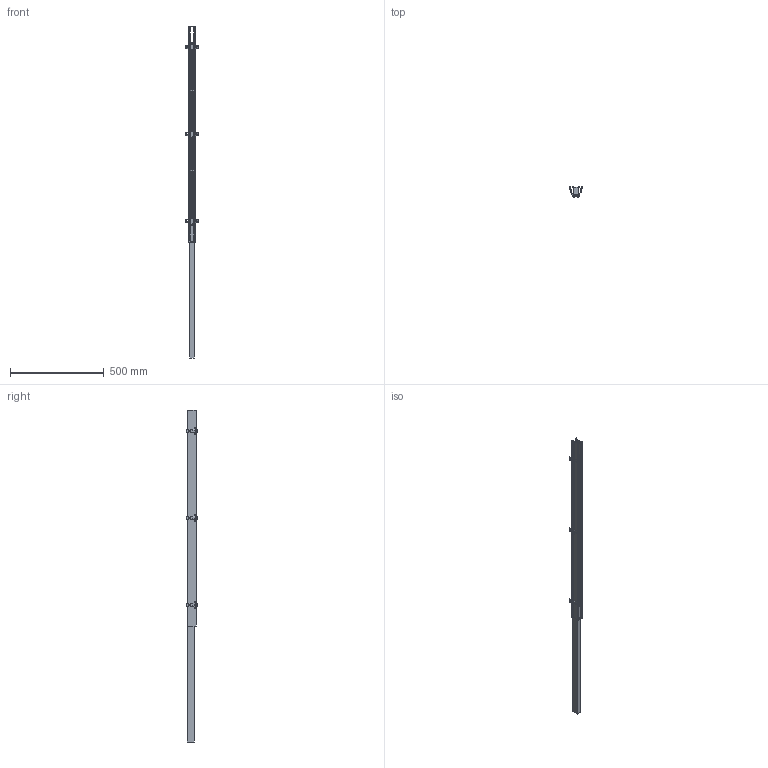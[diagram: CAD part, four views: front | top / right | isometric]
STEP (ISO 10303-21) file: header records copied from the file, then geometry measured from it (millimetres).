
FILE_DESCRIPTION(/* description */ ('Unknown'),/* implementation_level */ '2;1');
FILE_NAME(/* name */ '98375',/* time_stamp */ '2023-02-07T05:19:45-05:00',/* author */ ('Unknown'),/* organization */ ('Unknown'),/* preprocessor_version */ 'ST-DEVELOPER v18.1',/* originating_system */ 'Solid Edge',/* authorisation */ 'Unknown');
FILE_SCHEMA (('AUTOMOTIVE_DESIGN {1 0 10303 214 3 1 1}'));
Length unit declared in the file: millimetre
Products named in the file (8): CONTROCASSA A MOLLE; LED-PRO886; LED-RIV004; ATTACCO+MOLLE; LED-STA336; LED-MOL030; LED-OR130; LED-POL022
Assembly tree (22 placements, depth 3):
  CONTROCASSA A MOLLE
    LED-PRO886
    LED-RIV004  x12
    ATTACCO+MOLLE  x3
      LED-STA336
      LED-MOL030
      LED-OR130
    LED-POL022
Bounding box: 66.4 x 59 x 1772 mm (x, y, z)
Volume: 1708409.3 mm3; surface area: 543859.8 mm2
Topology: 29 solids, 29 shells, 1884 faces, 4598 edges, 2674 vertices
Faces by surface type: cylinder 808, plane 428, bspline 282, torus 210, sphere 156
Full cylindrical faces by diameter (mm): 1.5 x48, 3.2 x12, 3.3 x12, 3.5 x12, 6.5 x12
Entity records: 20090 total; most frequent: CARTESIAN_POINT 5392, DIRECTION 3055, ORIENTED_EDGE 3030, EDGE_CURVE 1515, AXIS2_PLACEMENT_3D 1167, VERTEX_POINT 977, LINE 721, VECTOR 721
